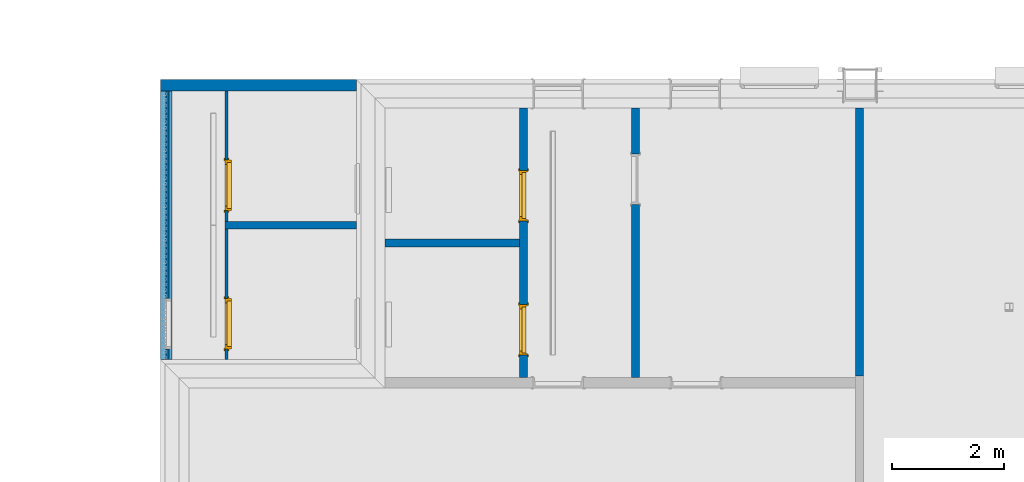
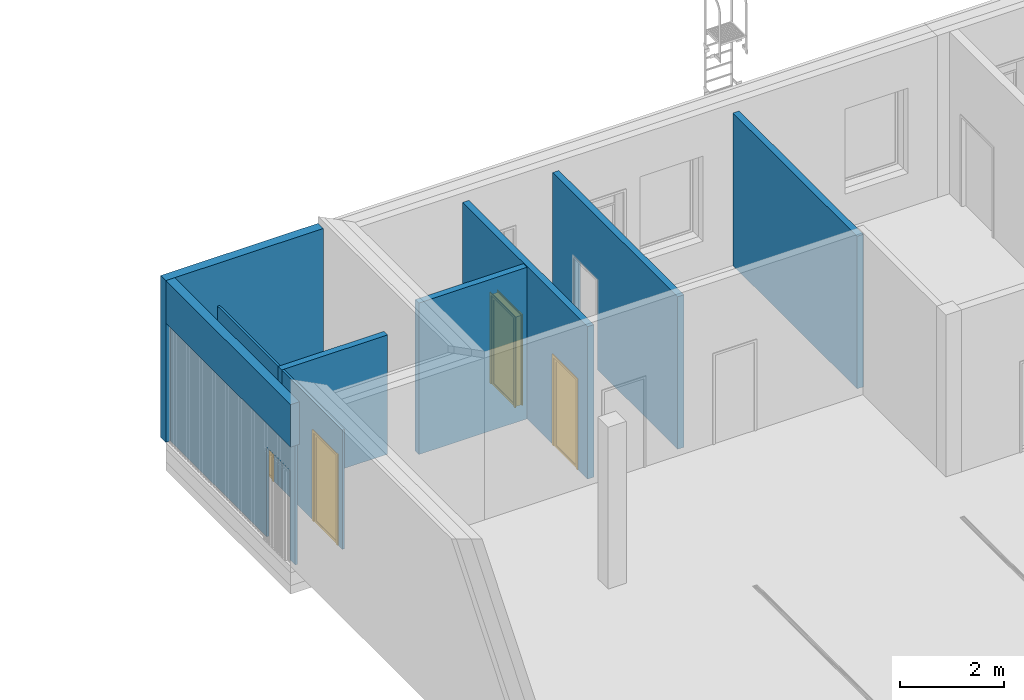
# One storey, part 14 of 112: 10 walls, 4 doors, 6 openings.
"""IFC2X3 building model written with IfcOpenShell, lengths in millimetres."""

from ifc_helpers import new_model, entity, si_unit, converted_unit, derived_unit, money_unit, direction, frame, origin_with_axes, origin_2d_with_axis, place, context, subcontext, project, spatial, polyline, rectangle, outline, extrude, open_shell, faceted_brep, surface_model, source, transform, mapped, material, layer, layer_set, layer_usage, type_object, element, fill, save


model = new_model("IFC2X3")

# Units and contexts
model_context = context("Model", 3, precision=0.01, world=origin_with_axes(), true_north=direction((0.0, 1.0)))
body_context = subcontext(model_context, "Body", "Model", "MODEL_VIEW")
ifc_project = project(units=[si_unit("LENGTHUNIT", "METRE", prefix="MILLI"), si_unit("AREAUNIT", "SQUARE_METRE"), si_unit("VOLUMEUNIT", "CUBIC_METRE"), converted_unit("PLANEANGLEUNIT", "DEGREE", entity("IfcPlaneAngleMeasure", 0.0174532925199), si_unit("PLANEANGLEUNIT", "RADIAN"), dimensions=[0, 0, 0, 0, 0, 0, 0]), si_unit("SOLIDANGLEUNIT", "STERADIAN"), money_unit("EUR"), converted_unit("TIMEUNIT", "Year", entity("IfcTimeMeasure", 31556926.0), si_unit("TIMEUNIT", "SECOND"), dimensions=[0, 0, 1, 0, 0, 0, 0]), si_unit("MASSUNIT", "GRAM", prefix="KILO"), si_unit("THERMODYNAMICTEMPERATUREUNIT", "DEGREE_CELSIUS"), si_unit("LUMINOUSINTENSITYUNIT", "LUMEN"), si_unit("ENERGYUNIT", "JOULE", prefix="MEGA"), derived_unit("THERMALCONDUCTANCEUNIT", [(si_unit("POWERUNIT", "WATT"), 1), (si_unit("LENGTHUNIT", "METRE"), -1), (si_unit("THERMODYNAMICTEMPERATUREUNIT", "KELVIN"), -1)]), derived_unit("SPECIFICHEATCAPACITYUNIT", [(si_unit("ENERGYUNIT", "JOULE"), 1), (si_unit("MASSUNIT", "GRAM", prefix="KILO"), -1), (si_unit("THERMODYNAMICTEMPERATUREUNIT", "KELVIN"), -1)]), derived_unit("MASSDENSITYUNIT", [(si_unit("MASSUNIT", "GRAM", prefix="KILO"), 1), (si_unit("VOLUMEUNIT", "CUBIC_METRE"), -1)])], contexts=[model_context])

# Site, building, storey
site_placement = place(None, origin_with_axes())
site = spatial("IfcSite", under=ifc_project, at=site_placement, Name="Politse- ja Piirivalveameti ning Päästeameti ühishoone", CompositionType="ELEMENT")
building_placement = place(site_placement, origin_with_axes())
building = spatial("IfcBuilding", under=site, at=building_placement, Name="Politse- ja Piirivalveameti ning Päästeameti ühishoone", CompositionType="ELEMENT")
storey_placement = place(building_placement, origin_with_axes())
storey = spatial("IfcBuildingStorey", under=building, at=storey_placement, Name="Esimene korrus", CompositionType="ELEMENT", Elevation=0.0)

# Wall
ifc_material_1 = material(Name="KON-05_Betoon Plokk - Konstuktsioon")
ifc_layer_1 = layer(ifc_material_1, 140.0, ventilated="UNKNOWN")
ifc_layer_set_1 = layer_set([ifc_layer_1], Name="SS-02_Sisesein 140")
ifc_layer_usage_1 = layer_usage(ifc_layer_set_1, "AXIS2", "NEGATIVE", 140.0)
wall_type_1 = type_object("IfcWallType", Name="SS-02_Sisesein 140 140", PredefinedType="NOTDEFINED")
wall_1_placement = place(storey_placement, frame((11900.1981808, 20999.9520832, 0.0), z_axis=(0.0, 0.0, 1.0), x_axis=(0.0, -1.0, 0.0)))
element("IfcWallStandardCase", 1, at=wall_1_placement, inside=storey, type_object=wall_type_1, material=ifc_layer_usage_1, Name="SS-02", context=body_context, shape_type="SweptSolid", body=[
    extrude(outline(polyline([(0.0, 0.0), (4779.92763877, 0.0), (4779.92763877, 140.0), (0.0, 140.0), (0.0, 0.0)])), origin_with_axes(), (0.0, 0.0, 1.0), 3580.0),
])

# Wall, openings, doors
ifc_layer_usage_2 = layer_usage(ifc_layer_set_1, "AXIS2", "NEGATIVE", 140.0)
wall_2_placement = place(storey_placement, frame((5900.00901389, 20999.9520832, 0.0), z_axis=(0.0, 0.0, 1.0), x_axis=(0.0, -1.0, 0.0)))
wall_2 = element("IfcWallStandardCase", 2, at=wall_2_placement, inside=storey, type_object=wall_type_1, material=ifc_layer_usage_2, Name="SS-02", context=body_context, shape_type="SweptSolid", body=[
    extrude(outline(polyline([(0.0, 0.0), (4809.92763877, 0.0), (4809.92763877, 140.0), (0.0, 140.0), (0.0, 0.0)])), origin_with_axes(), (0.0, 0.0, 1.0), 3580.0),
])
opening_1_placement = place(wall_2_placement, frame((1560.67215762, 0.0, 0.0), z_axis=(0.0, 0.0, 1.0), x_axis=(1.0, 0.0, 0.0)))
opening_1 = element("IfcOpeningElement", 3, at=opening_1_placement, cuts=wall_2, Name="SU-01-3", context=body_context, shape_type="SweptSolid", body=[
    extrude(rectangle(XDim=900.0, YDim=2100.0, at=origin_2d_with_axis()), frame((0.0, 140.0, 1050.0), z_axis=(0.0, 1.0, 0.0), x_axis=(1.0, 0.0, 0.0)), (0.0, 0.0, -1.0), 420.0),
    extrude(rectangle(XDim=974.0, YDim=2137.0, at=origin_2d_with_axis()), frame((0.0, 140.0, 1068.5), z_axis=(0.0, 1.0, 0.0), x_axis=(1.0, 0.0, 0.0)), (0.0, 0.0, 1.0), 140.0),
    extrude(rectangle(XDim=974.0, YDim=2137.0, at=origin_2d_with_axis()), frame((0.0, 0.0, 1068.5), z_axis=(0.0, -1.0, 0.0), x_axis=(1.0, 0.0, 0.0)), (0.0, 0.0, 1.0), 140.0),
])
opening_2_placement = place(wall_2_placement, frame((3960.35813724, 0.0, 0.0), z_axis=(0.0, 0.0, 1.0), x_axis=(1.0, 0.0, 0.0)))
opening_2 = element("IfcOpeningElement", 4, at=opening_2_placement, cuts=wall_2, Name="SU-01-3", context=body_context, shape_type="SweptSolid", body=[
    extrude(rectangle(XDim=900.0, YDim=2100.0, at=origin_2d_with_axis()), frame((0.0, 140.0, 1050.0), z_axis=(0.0, 1.0, 0.0), x_axis=(1.0, 0.0, 0.0)), (0.0, 0.0, -1.0), 420.0),
    extrude(rectangle(XDim=974.0, YDim=2137.0, at=origin_2d_with_axis()), frame((0.0, 140.0, 1068.5), z_axis=(0.0, 1.0, 0.0), x_axis=(1.0, 0.0, 0.0)), (0.0, 0.0, 1.0), 140.0),
    extrude(rectangle(XDim=974.0, YDim=2137.0, at=origin_2d_with_axis()), frame((0.0, 0.0, 1068.5), z_axis=(0.0, -1.0, 0.0), x_axis=(1.0, 0.0, 0.0)), (0.0, 0.0, 1.0), 140.0),
])
door_style_1 = type_object("IfcDoorStyle", Name="Door 23", ConstructionType="NOTDEFINED", OperationType="SINGLE_SWING_LEFT", ParameterTakesPrecedence=False, Sizeable=False)
shared_shape_1 = source(origin_with_axes(), body_context, "Body", "SurfaceModel", [
    faceted_brep([(-422.0, -40.0, 0.0), (-410.0, -40.0, 0.0), (-410.0, -40.0, 12.0), (-422.0, -40.0, 12.0), (422.0, -40.0, 0.0), (410.0, -40.0, 0.0), (410.0, -115.0, 0.0), (-410.0, -115.0, 0.0), (-410.0, -115.0, 12.0), (410.0, -115.0, 12.0), (410.0, -40.0, 12.0), (422.0, -40.0, 12.0)], [[[0, 1, 2, 3]], [[0, 4, 5, 6, 7, 1]], [[1, 7, 8, 2]], [[3, 2, 8, 9, 10, 11]], [[4, 0, 3, 11]], [[5, 4, 11, 10]], [[6, 5, 10, 9]], [[7, 6, 9, 8]]]),
    faceted_brep([(450.0, -115.0, 0.0), (450.0, -140.0, 0.0), (425.0, -140.0, 0.0), (425.0, -115.0, 0.0), (450.0, -115.0, 2100.0), (450.0, -140.0, 2100.0), (425.0, -140.0, 2075.0), (425.0, -115.0, 2075.0)], [[[0, 1, 2, 3]], [[4, 5, 1, 0]], [[1, 5, 6, 2]], [[3, 2, 6, 7]], [[0, 3, 7, 4]], [[7, 6, 5, 4]]]),
    faceted_brep([(-450.0, -115.0, 2100.0), (-450.0, -140.0, 2100.0), (-425.0, -140.0, 2075.0), (-425.0, -115.0, 2075.0), (-450.0, -115.0, 0.0), (-450.0, -140.0, 0.0), (-425.0, -140.0, 0.0), (-425.0, -115.0, 0.0)], [[[0, 1, 2, 3]], [[4, 5, 1, 0]], [[1, 5, 6, 2]], [[3, 2, 6, 7]], [[0, 3, 7, 4]], [[7, 6, 5, 4]]]),
    faceted_brep([(425.0, -115.0, 2075.0), (425.0, -140.0, 2075.0), (-425.0, -140.0, 2075.0), (-425.0, -115.0, 2075.0), (450.0, -115.0, 2100.0), (450.0, -140.0, 2100.0), (-450.0, -140.0, 2100.0), (-450.0, -115.0, 2100.0)], [[[0, 1, 2, 3]], [[4, 5, 1, 0]], [[1, 5, 6, 2]], [[3, 2, 6, 7]], [[0, 3, 7, 4]], [[7, 6, 5, 4]]]),
    faceted_brep([(487.0, -159.0, 0.0), (437.0, -159.0, 0.0), (437.0, -140.0, 0.0), (487.0, -140.0, 0.0), (487.0, -159.0, 2137.0), (437.0, -159.0, 2087.0), (437.0, -140.0, 2087.0), (487.0, -140.0, 2137.0)], [[[0, 1, 2, 3]], [[0, 4, 5, 1]], [[1, 5, 6, 2]], [[3, 2, 6, 7]], [[4, 0, 3, 7]], [[5, 4, 7, 6]]]),
    faceted_brep([(-487.0, -159.0, 2137.0), (-437.0, -159.0, 2087.0), (-437.0, -140.0, 2087.0), (-487.0, -140.0, 2137.0), (-487.0, -159.0, 0.0), (-437.0, -159.0, 0.0), (-437.0, -140.0, 0.0), (-487.0, -140.0, 0.0)], [[[0, 1, 2, 3]], [[0, 4, 5, 1]], [[1, 5, 6, 2]], [[3, 2, 6, 7]], [[4, 0, 3, 7]], [[5, 4, 7, 6]]]),
    faceted_brep([(487.0, -159.0, 2137.0), (437.0, -159.0, 2087.0), (437.0, -140.0, 2087.0), (487.0, -140.0, 2137.0), (-487.0, -159.0, 2137.0), (-437.0, -159.0, 2087.0), (-437.0, -140.0, 2087.0), (-487.0, -140.0, 2137.0)], [[[0, 1, 2, 3]], [[0, 4, 5, 1]], [[1, 5, 6, 2]], [[3, 2, 6, 7]], [[4, 0, 3, 7]], [[5, 4, 7, 6]]]),
    faceted_brep([(487.0, 19.0, 0.0), (487.0, 0.0, 0.0), (437.0, 0.0, 0.0), (437.0, 19.0, 0.0), (487.0, 19.0, 2137.0), (487.0, 0.0, 2137.0), (437.0, 0.0, 2087.0), (437.0, 19.0, 2087.0)], [[[0, 1, 2, 3]], [[4, 5, 1, 0]], [[1, 5, 6, 2]], [[3, 2, 6, 7]], [[0, 3, 7, 4]], [[7, 6, 5, 4]]]),
    faceted_brep([(-487.0, 19.0, 2137.0), (-487.0, 0.0, 2137.0), (-437.0, 0.0, 2087.0), (-437.0, 19.0, 2087.0), (-487.0, 19.0, 0.0), (-487.0, 0.0, 0.0), (-437.0, 0.0, 0.0), (-437.0, 19.0, 0.0)], [[[0, 1, 2, 3]], [[4, 5, 1, 0]], [[1, 5, 6, 2]], [[3, 2, 6, 7]], [[0, 3, 7, 4]], [[7, 6, 5, 4]]]),
    faceted_brep([(487.0, 19.0, 2137.0), (487.0, 0.0, 2137.0), (437.0, 0.0, 2087.0), (437.0, 19.0, 2087.0), (-487.0, 19.0, 2137.0), (-487.0, 0.0, 2137.0), (-437.0, 0.0, 2087.0), (-437.0, 19.0, 2087.0)], [[[0, 1, 2, 3]], [[4, 5, 1, 0]], [[1, 5, 6, 2]], [[3, 2, 6, 7]], [[0, 3, 7, 4]], [[7, 6, 5, 4]]]),
    faceted_brep([(410.0, -40.0, 0.0), (410.0, -115.0, 0.0), (410.0, -115.0, 2060.0), (410.0, -40.0, 2060.0), (422.0, -40.0, 0.0), (422.0, 0.0, 0.0), (450.0, 0.0, 0.0), (450.0, -115.0, 0.0), (450.0, -115.0, 2060.0), (422.0, -40.0, 2060.0), (450.0, 0.0, 2060.0), (422.0, 0.0, 2060.0)], [[[0, 1, 2, 3]], [[4, 5, 6, 7, 1, 0]], [[1, 7, 8, 2]], [[9, 3, 2, 8, 10, 11]], [[9, 4, 0, 3]], [[11, 5, 4, 9]], [[11, 10, 6, 5]], [[6, 10, 8, 7]]]),
    faceted_brep([(-422.0, -40.0, 2060.0), (-422.0, 0.0, 2060.0), (-450.0, 0.0, 2060.0), (-450.0, -115.0, 2060.0), (-410.0, -115.0, 2060.0), (-410.0, -40.0, 2060.0), (-422.0, -40.0, 0.0), (-422.0, 0.0, 0.0), (-450.0, 0.0, 0.0), (-450.0, -115.0, 0.0), (-410.0, -115.0, 0.0), (-410.0, -40.0, 0.0)], [[[0, 1, 2, 3, 4, 5]], [[0, 6, 7, 1]], [[7, 8, 2, 1]], [[2, 8, 9, 3]], [[3, 9, 10, 4]], [[5, 4, 10, 11]], [[5, 11, 6, 0]], [[6, 11, 10, 9, 8, 7]]]),
    faceted_brep([(422.0, 0.0, 2072.0), (-422.0, 0.0, 2072.0), (-422.0, 0.0, 2060.0), (-450.0, 0.0, 2060.0), (-450.0, 0.0, 2100.0), (450.0, 0.0, 2100.0), (450.0, 0.0, 2060.0), (422.0, 0.0, 2060.0), (422.0, -40.0, 2072.0), (-422.0, -40.0, 2072.0), (-422.0, -40.0, 2060.0), (-410.0, -40.0, 2060.0), (-410.0, -115.0, 2060.0), (-450.0, -115.0, 2060.0), (-450.0, -115.0, 2100.0), (450.0, -115.0, 2100.0), (450.0, -115.0, 2060.0), (422.0, -40.0, 2060.0), (410.0, -115.0, 2060.0), (410.0, -40.0, 2060.0)], [[[0, 1, 2, 3, 4, 5, 6, 7]], [[0, 8, 9, 1]], [[1, 9, 10, 2]], [[10, 11, 12, 13, 3, 2]], [[4, 3, 13, 14]], [[5, 4, 14, 15]], [[6, 5, 15, 16]], [[17, 7, 6, 16, 18, 19]], [[7, 17, 8, 0]], [[10, 9, 8, 17, 19, 11]], [[19, 18, 12, 11]], [[12, 18, 16, 15, 14, 13]]]),
    faceted_brep([(-422.0, 0.0, 50.0), (-372.0, 0.0, 50.0), (-372.0, -40.0, 50.0), (-422.0, -40.0, 50.0), (-422.0, 0.0, 2022.0), (-372.0, 0.0, 2022.0), (-372.0, -40.0, 2022.0), (-422.0, -40.0, 2022.0)], [[[0, 1, 2, 3]], [[0, 4, 5, 1]], [[1, 5, 6, 2]], [[3, 2, 6, 7]], [[4, 0, 3, 7]], [[5, 4, 7, 6]]]),
    faceted_brep([(422.0, 0.0, 50.0), (422.0, 0.0, 2022.0), (422.0, -40.0, 2022.0), (422.0, -40.0, 50.0), (372.0, 0.0, 50.0), (372.0, 0.0, 2022.0), (372.0, -40.0, 2022.0), (372.0, -40.0, 50.0)], [[[0, 1, 2, 3]], [[0, 4, 5, 1]], [[1, 5, 6, 2]], [[3, 2, 6, 7]], [[4, 0, 3, 7]], [[5, 4, 7, 6]]]),
    faceted_brep([(-422.0, 0.0, 0.0), (422.0, 0.0, 0.0), (422.0, -40.0, 0.0), (-422.0, -40.0, 0.0), (-422.0, 0.0, 50.0), (-372.0, 0.0, 50.0), (372.0, 0.0, 50.0), (422.0, 0.0, 50.0), (422.0, -40.0, 50.0), (372.0, -40.0, 50.0), (-372.0, -40.0, 50.0), (-422.0, -40.0, 50.0)], [[[0, 1, 2, 3]], [[0, 4, 5, 6, 7, 1]], [[1, 7, 8, 2]], [[3, 2, 8, 9, 10, 11]], [[4, 0, 3, 11]], [[5, 4, 11, 10]], [[6, 5, 10, 9]], [[7, 6, 9, 8]]]),
    faceted_brep([(-422.0, 0.0, 2072.0), (-422.0, 0.0, 2022.0), (-422.0, -40.0, 2022.0), (-422.0, -40.0, 2072.0), (422.0, 0.0, 2072.0), (422.0, 0.0, 2022.0), (372.0, 0.0, 2022.0), (-372.0, 0.0, 2022.0), (-372.0, -40.0, 2022.0), (372.0, -40.0, 2022.0), (422.0, -40.0, 2022.0), (422.0, -40.0, 2072.0)], [[[0, 1, 2, 3]], [[0, 4, 5, 6, 7, 1]], [[1, 7, 8, 2]], [[3, 2, 8, 9, 10, 11]], [[4, 0, 3, 11]], [[5, 4, 11, 10]], [[6, 5, 10, 9]], [[7, 6, 9, 8]]]),
    surface_model("IfcShellBasedSurfaceModel", [(-372.0, -14.0, 50.0), (-372.0, -14.0, 2022.0), (372.0, -14.0, 2022.0), (372.0, -14.0, 50.0)], [open_shell([[[0, 1, 2, 3]]])]),
    surface_model("IfcShellBasedSurfaceModel", [(-372.0, -26.0, 50.0), (372.0, -26.0, 50.0), (372.0, -26.0, 2022.0), (-372.0, -26.0, 2022.0)], [open_shell([[[0, 1, 2, 3]]])]),
])
door_1_placement = place(opening_1_placement, frame((450.0, 0.0, 0.0), z_axis=(0.0, 0.0, 1.0), x_axis=(-1.0, 0.0, 0.0)))
door_1 = element("IfcDoor", 5, at=door_1_placement, inside=storey, type_object=door_style_1, Name="SU-01-3", ObjectType="DOOR", OverallHeight=2100.0, OverallWidth=900.0, context=body_context, shape_type="MappedRepresentation", body=[
    mapped(shared_shape_1, transform((450.0, 0.0, 0.0))),
])
fill(opening_1, door_1)
door_2_placement = place(opening_2_placement, frame((450.0, 0.0, 0.0), z_axis=(0.0, 0.0, 1.0), x_axis=(-1.0, 0.0, 0.0)))
door_2 = element("IfcDoor", 6, at=door_2_placement, inside=storey, type_object=door_style_1, Name="SU-01-3", ObjectType="DOOR", OverallHeight=2100.0, OverallWidth=900.0, context=body_context, shape_type="MappedRepresentation", body=[
    mapped(shared_shape_1, transform((450.0, 0.0, 0.0))),
])
fill(opening_2, door_2)

# Wall, opening
ifc_layer_usage_3 = layer_usage(ifc_layer_set_1, "AXIS2", "NEGATIVE", 140.0)
wall_3_placement = place(storey_placement, frame((7899.93206932, 20999.9520832, 0.0), z_axis=(0.0, 0.0, 1.0), x_axis=(0.0, -1.0, 0.0)))
wall_3 = element("IfcWallStandardCase", 7, at=wall_3_placement, inside=storey, type_object=wall_type_1, material=ifc_layer_usage_3, Name="SS-02", context=body_context, shape_type="SweptSolid", body=[
    extrude(outline(polyline([(0.0, 0.0), (4809.92763877, 0.0), (4809.92763877, 140.0), (0.0, 140.0), (0.0, 0.0)])), origin_with_axes(), (0.0, 0.0, 1.0), 3580.0),
])
opening_3_placement = place(wall_3_placement, frame((1269.67215762, 0.0, 0.0), z_axis=(0.0, 0.0, 1.0), x_axis=(1.0, 0.0, 0.0)))
element("IfcOpeningElement", 8, at=opening_3_placement, cuts=wall_3, Name="SU-01-1", context=body_context, shape_type="SweptSolid", body=[
    extrude(rectangle(XDim=900.0, YDim=2100.0, at=origin_2d_with_axis()), frame((0.0, 140.0, 1050.0), z_axis=(0.0, -1.0, 0.0), x_axis=(1.0, 0.0, 0.0)), (0.0, 0.0, 1.0), 420.0),
    extrude(rectangle(XDim=974.0, YDim=2137.0, at=origin_2d_with_axis()), frame((0.0, 140.0, 1068.5), z_axis=(0.0, -1.0, 0.0), x_axis=(1.0, 0.0, 0.0)), (0.0, 0.0, -1.0), 140.0),
    extrude(rectangle(XDim=974.0, YDim=2137.0, at=origin_2d_with_axis()), frame((0.0, 0.0, 1068.5), z_axis=(0.0, 1.0, 0.0), x_axis=(1.0, 0.0, 0.0)), (0.0, 0.0, -1.0), 140.0),
])

# Walls
ifc_layer_usage_4 = layer_usage(ifc_layer_set_1, "AXIS2", "NEGATIVE", 70.0)
wall_4_placement = place(storey_placement, frame((5900.00901389, 18594.9882638, 0.0), z_axis=(0.0, 0.0, 1.0), x_axis=(-1.0, 0.0, 0.0)))
element("IfcWallStandardCase", 9, at=wall_4_placement, inside=storey, type_object=wall_type_1, material=ifc_layer_usage_4, Name="SS-02", context=body_context, shape_type="SweptSolid", body=[
    extrude(outline(polyline([(0.0, -70.0), (2400.00366667, -70.0), (2400.00366667, 70.0), (0.0, 70.0), (0.0, -70.0)])), origin_with_axes(), (0.0, 0.0, 1.0), 3558.00000002),
])
ifc_material_2 = material(Name="KON-04_Betoon - Konstuktsioon")
ifc_layer_2 = layer(ifc_material_2, 200.0, ventilated="UNKNOWN")
ifc_layer_set_2 = layer_set([ifc_layer_2], Name="VS-07_paneelvälissein külm")
ifc_layer_usage_5 = layer_usage(ifc_layer_set_2, "AXIS2", "POSITIVE", -200.0)
wall_type_2 = type_object("IfcWallType", Name="VS-07_paneelvälissein külm 200", PredefinedType="NOTDEFINED")
wall_5_placement = place(storey_placement, frame((2990.00534722, 21309.9520832, 0.0), z_axis=(0.0, 0.0, 1.0), x_axis=(-1.0, 0.0, 0.0)))
element("IfcWallStandardCase", 10, at=wall_5_placement, inside=storey, type_object=wall_type_2, material=ifc_layer_usage_5, Name="VS-07", context=body_context, shape_type="SweptSolid", body=[
    extrude(outline(polyline([(0.0, -200.0), (3500.00534722, -200.0), (3500.00534722, 0.0), (0.0, 0.0), (0.0, -200.0)])), origin_with_axes(), (0.0, 0.0, 1.0), 3800.0),
])
ifc_layer_usage_6 = layer_usage(ifc_layer_set_2, "AXIS2", "POSITIVE", -200.0)
wall_6_placement = place(storey_placement, frame((-310.0, 21309.9520832, 2800.0), z_axis=(0.0, 0.0, 1.0), x_axis=(0.0, -1.0, 0.0)))
element("IfcWallStandardCase", 11, at=wall_6_placement, inside=storey, type_object=wall_type_2, material=ifc_layer_usage_6, Name="SS-04", context=body_context, shape_type="SweptSolid", body=[
    extrude(outline(polyline([(0.0, -200.0), (4799.92763877, -200.0), (4799.92763877, 0.0), (0.0, 0.0), (0.0, -200.0)])), origin_with_axes(), (0.0, 0.0, 1.0), 1000.0),
])

# Wall, opening
ifc_material_3 = material(Name="Õhkvahe - Raam")
ifc_layer_3 = layer(ifc_material_3, 50.0, ventilated="UNKNOWN")
ifc_layer_set_3 = layer_set([ifc_layer_3], Name="VS-05_välissein - fassaadilamell")
ifc_layer_usage_7 = layer_usage(ifc_layer_set_3, "AXIS2", "NEGATIVE", 50.0)
wall_type_3 = type_object("IfcWallType", Name="VS-05_välissein - fassaadilamell 50", PredefinedType="NOTDEFINED")
wall_7_placement = place(storey_placement, frame((-409.917636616, 21309.9520832, 0.0), z_axis=(0.0, 0.0, 1.0), x_axis=(0.0, -1.0, 0.0)))
wall_7 = element("IfcWallStandardCase", 12, at=wall_7_placement, inside=storey, type_object=wall_type_3, material=ifc_layer_usage_7, Name="VS-05", context=body_context, shape_type="SweptSolid", body=[
    extrude(outline(polyline([(0.0, 0.0), (4800.0, 0.0), (4800.0, 50.0), (0.0, 50.0), (0.0, 0.0)])), origin_with_axes(), (0.0, 0.0, 1.0), 2800.0),
])
opening_4_placement = place(wall_7_placement, frame((4159.17443318, 0.0, 0.0), z_axis=(0.0, 0.0, 1.0), x_axis=(1.0, 0.0, 0.0)))
element("IfcOpeningElement", 13, at=opening_4_placement, cuts=wall_7, Name="VU-04", context=body_context, shape_type="SweptSolid", body=[
    extrude(rectangle(XDim=900.0, YDim=2100.0, at=origin_2d_with_axis()), frame((0.0, 50.0, 1050.0), z_axis=(0.0, 1.0, 0.0), x_axis=(1.0, 0.0, 0.0)), (0.0, 0.0, -1.0), 180.0),
])

# Wall
ifc_layer_4 = layer(ifc_material_2, 140.0, ventilated="UNKNOWN")
ifc_layer_set_4 = layer_set([ifc_layer_4], Name="VS-09 sein aedikute vahel")
ifc_layer_usage_8 = layer_usage(ifc_layer_set_4, "AXIS2", "NEGATIVE", 70.0)
wall_type_4 = type_object("IfcWallType", Name="VS-09 sein aedikute vahel 140", PredefinedType="NOTDEFINED")
wall_8_placement = place(storey_placement, frame((640.576935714, 18909.9882638, 0.0), z_axis=(0.0, 0.0, 1.0), x_axis=(1.0, 0.0, 0.0)))
element("IfcWallStandardCase", 14, at=wall_8_placement, inside=storey, type_object=wall_type_4, material=ifc_layer_usage_8, Name="VS-09", context=body_context, shape_type="SweptSolid", body=[
    extrude(outline(polyline([(0.0, -70.0), (2349.42841151, -70.0), (2349.42841151, 70.0), (0.0, 70.0), (0.0, -70.0)])), origin_with_axes(), (0.0, 0.0, 1.0), 2800.0),
])

# Wall, opening, door
ifc_layer_5 = layer(ifc_material_3, 50.0, ventilated="UNKNOWN")
ifc_layer_set_5 = layer_set([ifc_layer_5], Name="VS-12_välissein - met-võrk koera aia ees")
ifc_layer_usage_9 = layer_usage(ifc_layer_set_5, "AXIS2", "NEGATIVE", 50.0)
wall_type_5 = type_object("IfcWallType", Name="VS-12_välissein - met-võrk koera aia ees 50", PredefinedType="NOTDEFINED")
wall_9_placement = place(storey_placement, frame((640.589480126, 18909.9882638, 0.0), z_axis=(0.0, 0.0, 1.0), x_axis=(-0.000179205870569, -0.999999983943, 0.0)))
wall_9 = element("IfcWallStandardCase", 15, at=wall_9_placement, inside=storey, type_object=wall_type_5, material=ifc_layer_usage_9, Name="VS-12", context=body_context, shape_type="SweptSolid", body=[
    extrude(outline(polyline([(70.000001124, 0.0), (2400.03621916, 0.0), (2400.03621916, 50.0), (69.9910408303, 50.0), (70.000001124, 0.0)])), origin_with_axes(), (0.0, 0.0, 1.0), 2800.0),
])
opening_5_placement = place(wall_9_placement, frame((1759.21065234, 0.0, 0.0), z_axis=(0.0, 0.0, 1.0), x_axis=(1.0, 0.0, 0.0)))
opening_5 = element("IfcOpeningElement", 16, at=opening_5_placement, cuts=wall_9, Name="VU-09", context=body_context, shape_type="SweptSolid", body=[
    extrude(rectangle(XDim=900.0, YDim=2100.0, at=origin_2d_with_axis()), frame((0.0, 50.0, 1050.0), z_axis=(0.0, 1.0, 0.0), x_axis=(1.0, 0.0, 0.0)), (0.0, 0.0, -1.0), 150.0),
    extrude(rectangle(XDim=974.0, YDim=2137.0, at=origin_2d_with_axis()), frame((0.0, 50.0, 1068.5), z_axis=(0.0, 1.0, 0.0), x_axis=(1.0, 0.0, 0.0)), (0.0, 0.0, 1.0), 50.0),
    extrude(rectangle(XDim=974.0, YDim=2137.0, at=origin_2d_with_axis()), frame((0.0, 0.0, 1068.5), z_axis=(0.0, -1.0, 0.0), x_axis=(1.0, 0.0, 0.0)), (0.0, 0.0, 1.0), 50.0),
])
door_style_2 = type_object("IfcDoorStyle", Name="Door 23", ConstructionType="NOTDEFINED", OperationType="SINGLE_SWING_LEFT", ParameterTakesPrecedence=False, Sizeable=False)
shared_shape_2 = source(origin_with_axes(), body_context, "Body", "SurfaceModel", [
    faceted_brep([(-422.0, -40.0, 0.0), (-410.0, -40.0, 0.0), (-410.0, -40.0, 12.0), (-422.0, -40.0, 12.0), (422.0, -40.0, 0.0), (410.0, -40.0, 0.0), (410.0, -115.0, 0.0), (-410.0, -115.0, 0.0), (-410.0, -115.0, 12.0), (410.0, -115.0, 12.0), (410.0, -40.0, 12.0), (422.0, -40.0, 12.0)], [[[0, 1, 2, 3]], [[0, 4, 5, 6, 7, 1]], [[1, 7, 8, 2]], [[3, 2, 8, 9, 10, 11]], [[4, 0, 3, 11]], [[5, 4, 11, 10]], [[6, 5, 10, 9]], [[7, 6, 9, 8]]]),
    faceted_brep([(487.0, -69.0, 0.0), (437.0, -69.0, 0.0), (437.0, -50.0, 0.0), (487.0, -50.0, 0.0), (487.0, -69.0, 2137.0), (437.0, -69.0, 2087.0), (437.0, -50.0, 2087.0), (487.0, -50.0, 2137.0)], [[[0, 1, 2, 3]], [[0, 4, 5, 1]], [[1, 5, 6, 2]], [[3, 2, 6, 7]], [[4, 0, 3, 7]], [[5, 4, 7, 6]]]),
    faceted_brep([(-487.0, -69.0, 2137.0), (-437.0, -69.0, 2087.0), (-437.0, -50.0, 2087.0), (-487.0, -50.0, 2137.0), (-487.0, -69.0, 0.0), (-437.0, -69.0, 0.0), (-437.0, -50.0, 0.0), (-487.0, -50.0, 0.0)], [[[0, 1, 2, 3]], [[0, 4, 5, 1]], [[1, 5, 6, 2]], [[3, 2, 6, 7]], [[4, 0, 3, 7]], [[5, 4, 7, 6]]]),
    faceted_brep([(487.0, -69.0, 2137.0), (437.0, -69.0, 2087.0), (437.0, -50.0, 2087.0), (487.0, -50.0, 2137.0), (-487.0, -69.0, 2137.0), (-437.0, -69.0, 2087.0), (-437.0, -50.0, 2087.0), (-487.0, -50.0, 2137.0)], [[[0, 1, 2, 3]], [[0, 4, 5, 1]], [[1, 5, 6, 2]], [[3, 2, 6, 7]], [[4, 0, 3, 7]], [[5, 4, 7, 6]]]),
    faceted_brep([(487.0, 19.0, 0.0), (487.0, 0.0, 0.0), (437.0, 0.0, 0.0), (437.0, 19.0, 0.0), (487.0, 19.0, 2137.0), (487.0, 0.0, 2137.0), (437.0, 0.0, 2087.0), (437.0, 19.0, 2087.0)], [[[0, 1, 2, 3]], [[4, 5, 1, 0]], [[1, 5, 6, 2]], [[3, 2, 6, 7]], [[0, 3, 7, 4]], [[7, 6, 5, 4]]]),
    faceted_brep([(-487.0, 19.0, 2137.0), (-487.0, 0.0, 2137.0), (-437.0, 0.0, 2087.0), (-437.0, 19.0, 2087.0), (-487.0, 19.0, 0.0), (-487.0, 0.0, 0.0), (-437.0, 0.0, 0.0), (-437.0, 19.0, 0.0)], [[[0, 1, 2, 3]], [[4, 5, 1, 0]], [[1, 5, 6, 2]], [[3, 2, 6, 7]], [[0, 3, 7, 4]], [[7, 6, 5, 4]]]),
    faceted_brep([(487.0, 19.0, 2137.0), (487.0, 0.0, 2137.0), (437.0, 0.0, 2087.0), (437.0, 19.0, 2087.0), (-487.0, 19.0, 2137.0), (-487.0, 0.0, 2137.0), (-437.0, 0.0, 2087.0), (-437.0, 19.0, 2087.0)], [[[0, 1, 2, 3]], [[4, 5, 1, 0]], [[1, 5, 6, 2]], [[3, 2, 6, 7]], [[0, 3, 7, 4]], [[7, 6, 5, 4]]]),
    faceted_brep([(410.0, -40.0, 0.0), (410.0, -115.0, 0.0), (410.0, -115.0, 2060.0), (410.0, -40.0, 2060.0), (422.0, -40.0, 0.0), (422.0, 0.0, 0.0), (450.0, 0.0, 0.0), (450.0, -115.0, 0.0), (450.0, -115.0, 2060.0), (422.0, -40.0, 2060.0), (450.0, 0.0, 2060.0), (422.0, 0.0, 2060.0)], [[[0, 1, 2, 3]], [[4, 5, 6, 7, 1, 0]], [[1, 7, 8, 2]], [[9, 3, 2, 8, 10, 11]], [[9, 4, 0, 3]], [[11, 5, 4, 9]], [[11, 10, 6, 5]], [[6, 10, 8, 7]]]),
    faceted_brep([(-422.0, -40.0, 2060.0), (-422.0, 0.0, 2060.0), (-450.0, 0.0, 2060.0), (-450.0, -115.0, 2060.0), (-410.0, -115.0, 2060.0), (-410.0, -40.0, 2060.0), (-422.0, -40.0, 0.0), (-422.0, 0.0, 0.0), (-450.0, 0.0, 0.0), (-450.0, -115.0, 0.0), (-410.0, -115.0, 0.0), (-410.0, -40.0, 0.0)], [[[0, 1, 2, 3, 4, 5]], [[0, 6, 7, 1]], [[7, 8, 2, 1]], [[2, 8, 9, 3]], [[3, 9, 10, 4]], [[5, 4, 10, 11]], [[5, 11, 6, 0]], [[6, 11, 10, 9, 8, 7]]]),
    faceted_brep([(422.0, 0.0, 2072.0), (-422.0, 0.0, 2072.0), (-422.0, 0.0, 2060.0), (-450.0, 0.0, 2060.0), (-450.0, 0.0, 2100.0), (450.0, 0.0, 2100.0), (450.0, 0.0, 2060.0), (422.0, 0.0, 2060.0), (422.0, -40.0, 2072.0), (-422.0, -40.0, 2072.0), (-422.0, -40.0, 2060.0), (-410.0, -40.0, 2060.0), (-410.0, -115.0, 2060.0), (-450.0, -115.0, 2060.0), (-450.0, -115.0, 2100.0), (450.0, -115.0, 2100.0), (450.0, -115.0, 2060.0), (422.0, -40.0, 2060.0), (410.0, -115.0, 2060.0), (410.0, -40.0, 2060.0)], [[[0, 1, 2, 3, 4, 5, 6, 7]], [[0, 8, 9, 1]], [[1, 9, 10, 2]], [[10, 11, 12, 13, 3, 2]], [[4, 3, 13, 14]], [[5, 4, 14, 15]], [[6, 5, 15, 16]], [[17, 7, 6, 16, 18, 19]], [[7, 17, 8, 0]], [[10, 9, 8, 17, 19, 11]], [[19, 18, 12, 11]], [[12, 18, 16, 15, 14, 13]]]),
    faceted_brep([(-422.0, 0.0, 50.0), (-372.0, 0.0, 50.0), (-372.0, -40.0, 50.0), (-422.0, -40.0, 50.0), (-422.0, 0.0, 2022.0), (-372.0, 0.0, 2022.0), (-372.0, -40.0, 2022.0), (-422.0, -40.0, 2022.0)], [[[0, 1, 2, 3]], [[0, 4, 5, 1]], [[1, 5, 6, 2]], [[3, 2, 6, 7]], [[4, 0, 3, 7]], [[5, 4, 7, 6]]]),
    faceted_brep([(422.0, 0.0, 50.0), (422.0, 0.0, 2022.0), (422.0, -40.0, 2022.0), (422.0, -40.0, 50.0), (372.0, 0.0, 50.0), (372.0, 0.0, 2022.0), (372.0, -40.0, 2022.0), (372.0, -40.0, 50.0)], [[[0, 1, 2, 3]], [[0, 4, 5, 1]], [[1, 5, 6, 2]], [[3, 2, 6, 7]], [[4, 0, 3, 7]], [[5, 4, 7, 6]]]),
    faceted_brep([(-422.0, 0.0, 0.0), (422.0, 0.0, 0.0), (422.0, -40.0, 0.0), (-422.0, -40.0, 0.0), (-422.0, 0.0, 50.0), (-372.0, 0.0, 50.0), (372.0, 0.0, 50.0), (422.0, 0.0, 50.0), (422.0, -40.0, 50.0), (372.0, -40.0, 50.0), (-372.0, -40.0, 50.0), (-422.0, -40.0, 50.0)], [[[0, 1, 2, 3]], [[0, 4, 5, 6, 7, 1]], [[1, 7, 8, 2]], [[3, 2, 8, 9, 10, 11]], [[4, 0, 3, 11]], [[5, 4, 11, 10]], [[6, 5, 10, 9]], [[7, 6, 9, 8]]]),
    faceted_brep([(-422.0, 0.0, 2072.0), (-422.0, 0.0, 2022.0), (-422.0, -40.0, 2022.0), (-422.0, -40.0, 2072.0), (422.0, 0.0, 2072.0), (422.0, 0.0, 2022.0), (372.0, 0.0, 2022.0), (-372.0, 0.0, 2022.0), (-372.0, -40.0, 2022.0), (372.0, -40.0, 2022.0), (422.0, -40.0, 2022.0), (422.0, -40.0, 2072.0)], [[[0, 1, 2, 3]], [[0, 4, 5, 6, 7, 1]], [[1, 7, 8, 2]], [[3, 2, 8, 9, 10, 11]], [[4, 0, 3, 11]], [[5, 4, 11, 10]], [[6, 5, 10, 9]], [[7, 6, 9, 8]]]),
    surface_model("IfcShellBasedSurfaceModel", [(-372.0, -14.0, 50.0), (-372.0, -14.0, 2022.0), (372.0, -14.0, 2022.0), (372.0, -14.0, 50.0)], [open_shell([[[0, 1, 2, 3]]])]),
    surface_model("IfcShellBasedSurfaceModel", [(-372.0, -26.0, 50.0), (372.0, -26.0, 50.0), (372.0, -26.0, 2022.0), (-372.0, -26.0, 2022.0)], [open_shell([[[0, 1, 2, 3]]])]),
])
door_3_placement = place(opening_5_placement, frame((450.0, 0.0, 0.0), z_axis=(0.0, 0.0, 1.0), x_axis=(-1.0, 0.0, 0.0)))
door_3 = element("IfcDoor", 17, at=door_3_placement, inside=storey, type_object=door_style_2, Name="VU-09", ObjectType="DOOR", OverallHeight=2100.0, OverallWidth=900.0, context=body_context, shape_type="MappedRepresentation", body=[
    mapped(shared_shape_2, transform((450.0, 0.0, 0.0))),
])
fill(opening_5, door_3)

ifc_layer_usage_10 = layer_usage(ifc_layer_set_5, "AXIS2", "NEGATIVE", 50.0)
wall_10_placement = place(storey_placement, frame((640.576885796, 21309.7458931, 0.0), z_axis=(0.0, 0.0, 1.0), x_axis=(-0.000179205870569, -0.999999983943, 0.0)))
wall_10 = element("IfcWallStandardCase", 18, at=wall_10_placement, inside=storey, type_object=wall_type_5, material=ifc_layer_usage_10, Name="VS-12", context=body_context, shape_type="SweptSolid", body=[
    extrude(outline(polyline([(0.0, 0.0), (2329.75766666, 0.0), (2329.75766666, 50.0), (0.0, 50.0), (0.0, 0.0)])), origin_with_axes(), (0.0, 0.0, 1.0), 2800.0),
])
opening_6_placement = place(wall_10_placement, frame((1688.93209984, 0.0, 0.0), z_axis=(0.0, 0.0, 1.0), x_axis=(1.0, 0.0, 0.0)))
opening_6 = element("IfcOpeningElement", 19, at=opening_6_placement, cuts=wall_10, Name="VU-09", context=body_context, shape_type="SweptSolid", body=[
    extrude(rectangle(XDim=900.0, YDim=2100.0, at=origin_2d_with_axis()), frame((0.0, 50.0, 1050.0), z_axis=(0.0, 1.0, 0.0), x_axis=(1.0, 0.0, 0.0)), (0.0, 0.0, -1.0), 150.0),
    extrude(rectangle(XDim=974.0, YDim=2137.0, at=origin_2d_with_axis()), frame((0.0, 50.0, 1068.5), z_axis=(0.0, 1.0, 0.0), x_axis=(1.0, 0.0, 0.0)), (0.0, 0.0, 1.0), 50.0),
    extrude(rectangle(XDim=974.0, YDim=2137.0, at=origin_2d_with_axis()), frame((0.0, 0.0, 1068.5), z_axis=(0.0, -1.0, 0.0), x_axis=(1.0, 0.0, 0.0)), (0.0, 0.0, 1.0), 50.0),
])
door_4_placement = place(opening_6_placement, frame((450.0, 0.0, 0.0), z_axis=(0.0, 0.0, 1.0), x_axis=(-1.0, 0.0, 0.0)))
door_4 = element("IfcDoor", 20, at=door_4_placement, inside=storey, type_object=door_style_2, Name="VU-09", ObjectType="DOOR", OverallHeight=2100.0, OverallWidth=900.0, context=body_context, shape_type="MappedRepresentation", body=[
    mapped(shared_shape_2, transform((450.0, 0.0, 0.0))),
])
fill(opening_6, door_4)

save(model, "model.ifc")
